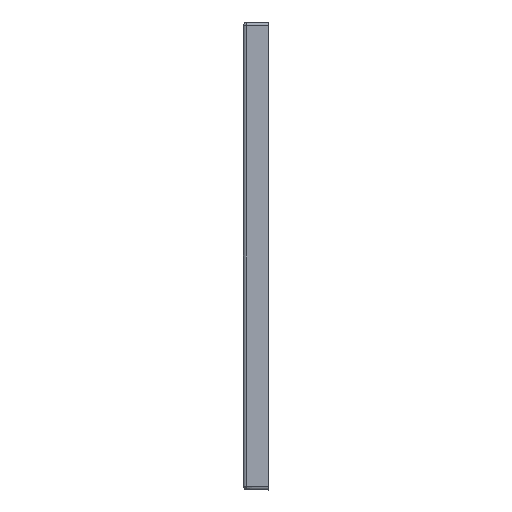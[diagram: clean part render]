
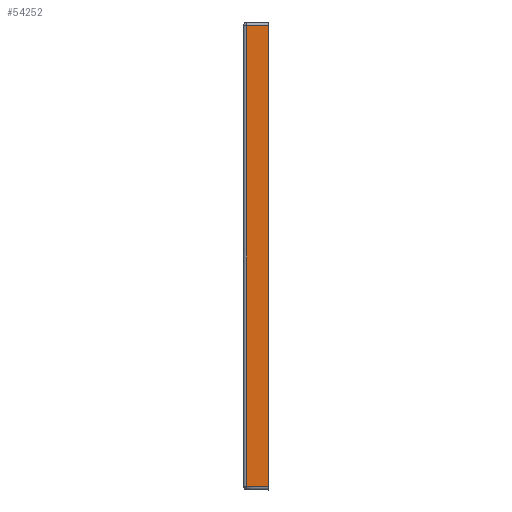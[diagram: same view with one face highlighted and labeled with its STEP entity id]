
A CAD part, left-side view. The second image highlights one B-rep face of the part: STEP entity #54252.
In plain terms, the highlighted planar face has unit normal (-1, 0.018, 0).
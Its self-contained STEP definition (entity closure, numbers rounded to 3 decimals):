
#2439 = EDGE_CURVE ( 'NONE', #50561, #15086, #49352, .T. ) ;
#3734 = CARTESIAN_POINT ( 'NONE',  ( -600.086, -4.913, 190.087 ) ) ;
#4709 = EDGE_LOOP ( 'NONE', ( #40752, #81080, #52597, #26096 ) ) ;
#7931 = DIRECTION ( 'NONE',  ( -0.017, -1., -0.017 ) ) ;
#14004 = LINE ( 'NONE', #38854, #43060 ) ;
#15086 = VERTEX_POINT ( 'NONE', #3734 ) ;
#18001 = DIRECTION ( 'NONE',  ( -1., 0.017, 0. ) ) ;
#18501 = EDGE_CURVE ( 'NONE', #81591, #26629, #46869, .T. ) ;
#23824 = FACE_OUTER_BOUND ( 'NONE', #4709, .T. ) ;
#26096 = ORIENTED_EDGE ( 'NONE', *, *, #18501, .T. ) ;
#26629 = VERTEX_POINT ( 'NONE', #75165 ) ;
#32126 = EDGE_CURVE ( 'NONE', #81591, #15086, #14004, .T. ) ;
#32467 = CARTESIAN_POINT ( 'NONE',  ( -600.086, -4.913, -500.087 ) ) ;
#33262 = CARTESIAN_POINT ( 'NONE',  ( -600.663, -38., 190.664 ) ) ;
#36671 = CARTESIAN_POINT ( 'NONE',  ( -600., 0., -505. ) ) ;
#38854 = CARTESIAN_POINT ( 'NONE',  ( -600.086, -4.913, 195. ) ) ;
#40752 = ORIENTED_EDGE ( 'NONE', *, *, #42248, .T. ) ;
#42248 = EDGE_CURVE ( 'NONE', #26629, #50561, #56758, .T. ) ;
#43060 = VECTOR ( 'NONE', #71589, 1000. ) ;
#46869 = LINE ( 'NONE', #65926, #68088 ) ;
#49091 = PLANE ( 'NONE',  #67813 ) ;
#49352 = LINE ( 'NONE', #67201, #72055 ) ;
#50561 = VERTEX_POINT ( 'NONE', #33262 ) ;
#52597 = ORIENTED_EDGE ( 'NONE', *, *, #32126, .F. ) ;
#54252 = ADVANCED_FACE ( 'NONE', ( #23824 ), #49091, .T. ) ;
#55312 = DIRECTION ( 'NONE',  ( -0.017, -1., 0. ) ) ;
#56758 = LINE ( 'NONE', #75430, #74897 ) ;
#63382 = DIRECTION ( 'NONE',  ( 0., 0., 1. ) ) ;
#65926 = CARTESIAN_POINT ( 'NONE',  ( -600.086, -4.913, -500.087 ) ) ;
#67201 = CARTESIAN_POINT ( 'NONE',  ( -600.663, -38., 190.664 ) ) ;
#67813 = AXIS2_PLACEMENT_3D ( 'NONE', #36671, #18001, #55312 ) ;
#68012 = DIRECTION ( 'NONE',  ( 0.017, 1., -0.017 ) ) ;
#68088 = VECTOR ( 'NONE', #7931, 1000. ) ;
#71589 = DIRECTION ( 'NONE',  ( 0., 0., 1. ) ) ;
#72055 = VECTOR ( 'NONE', #68012, 1000. ) ;
#74897 = VECTOR ( 'NONE', #63382, 1000. ) ;
#75165 = CARTESIAN_POINT ( 'NONE',  ( -600.663, -38., -500.664 ) ) ;
#75430 = CARTESIAN_POINT ( 'NONE',  ( -600.663, -38., -505. ) ) ;
#81080 = ORIENTED_EDGE ( 'NONE', *, *, #2439, .T. ) ;
#81591 = VERTEX_POINT ( 'NONE', #32467 ) ;
